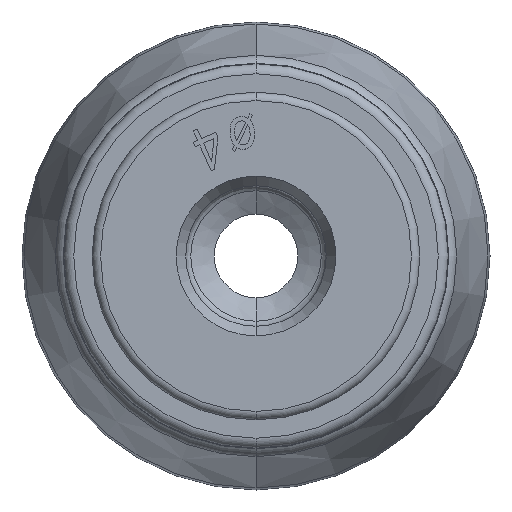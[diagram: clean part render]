
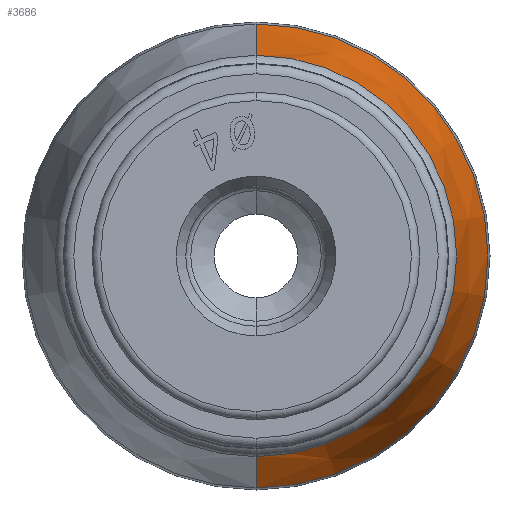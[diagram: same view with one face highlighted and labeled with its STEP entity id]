
A CAD part, front view. The second image highlights one B-rep face of the part: STEP entity #3686.
In plain terms, the highlighted conical face has half-angle 14.157 degrees and reference radius 5.95 mm.
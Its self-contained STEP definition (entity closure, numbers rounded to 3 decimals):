
#31 = ORIENTED_EDGE ( 'NONE', *, *, #578, .T. ) ;
#44 = EDGE_CURVE ( 'NONE', #2512, #2535, #1566, .T. ) ;
#158 = DIRECTION ( 'NONE',  ( 0., 1., 0. ) ) ;
#251 = CARTESIAN_POINT ( 'NONE',  ( 0., 14.542, 6.002 ) ) ;
#295 = CIRCLE ( 'NONE', #5193, 6.002 ) ;
#460 = VECTOR ( 'NONE', #7468, 1000. ) ;
#468 = AXIS2_PLACEMENT_3D ( 'NONE', #1487, #158, #4797 ) ;
#578 = EDGE_CURVE ( 'NONE', #3715, #953, #295, .T. ) ;
#611 = EDGE_CURVE ( 'NONE', #953, #2512, #4592, .T. ) ;
#762 = CARTESIAN_POINT ( 'NONE',  ( 0., 14.337, 5.95 ) ) ;
#924 = FACE_OUTER_BOUND ( 'NONE', #5440, .T. ) ;
#953 = VERTEX_POINT ( 'NONE', #1708 ) ;
#1011 = CARTESIAN_POINT ( 'NONE',  ( 0., 18.259, -6.939 ) ) ;
#1076 = CARTESIAN_POINT ( 'NONE',  ( 0., 18.259, 0. ) ) ;
#1487 = CARTESIAN_POINT ( 'NONE',  ( 0., 14.337, 0. ) ) ;
#1566 = CIRCLE ( 'NONE', #2690, 6.939 ) ;
#1708 = CARTESIAN_POINT ( 'NONE',  ( 0., 14.542, -6.002 ) ) ;
#1861 = ORIENTED_EDGE ( 'NONE', *, *, #44, .T. ) ;
#1940 = DIRECTION ( 'NONE',  ( 0., 0., -1. ) ) ;
#2265 = ORIENTED_EDGE ( 'NONE', *, *, #2840, .F. ) ;
#2512 = VERTEX_POINT ( 'NONE', #1011 ) ;
#2535 = VERTEX_POINT ( 'NONE', #6248 ) ;
#2590 = DIRECTION ( 'NONE',  ( 0., 1., 0. ) ) ;
#2690 = AXIS2_PLACEMENT_3D ( 'NONE', #1076, #7111, #7782 ) ;
#2840 = EDGE_CURVE ( 'NONE', #3715, #2535, #7339, .T. ) ;
#3686 = ADVANCED_FACE ( 'NONE', ( #924 ), #6358, .T. ) ;
#3715 = VERTEX_POINT ( 'NONE', #251 ) ;
#4546 = DIRECTION ( 'NONE',  ( 0., 0.97, -0.245 ) ) ;
#4592 = LINE ( 'NONE', #8454, #7970 ) ;
#4797 = DIRECTION ( 'NONE',  ( 0., 0., 1. ) ) ;
#5193 = AXIS2_PLACEMENT_3D ( 'NONE', #6601, #2590, #1940 ) ;
#5440 = EDGE_LOOP ( 'NONE', ( #31, #6633, #1861, #2265 ) ) ;
#6248 = CARTESIAN_POINT ( 'NONE',  ( 0., 18.259, 6.939 ) ) ;
#6358 = CONICAL_SURFACE ( 'NONE', #468, 5.95, 0.247 ) ;
#6601 = CARTESIAN_POINT ( 'NONE',  ( 0., 14.542, 0. ) ) ;
#6633 = ORIENTED_EDGE ( 'NONE', *, *, #611, .T. ) ;
#7111 = DIRECTION ( 'NONE',  ( 0., -1., 0. ) ) ;
#7339 = LINE ( 'NONE', #762, #460 ) ;
#7468 = DIRECTION ( 'NONE',  ( 0., 0.97, 0.245 ) ) ;
#7782 = DIRECTION ( 'NONE',  ( 0., 0., -1. ) ) ;
#7970 = VECTOR ( 'NONE', #4546, 1000. ) ;
#8454 = CARTESIAN_POINT ( 'NONE',  ( 0., 14.337, -5.95 ) ) ;
